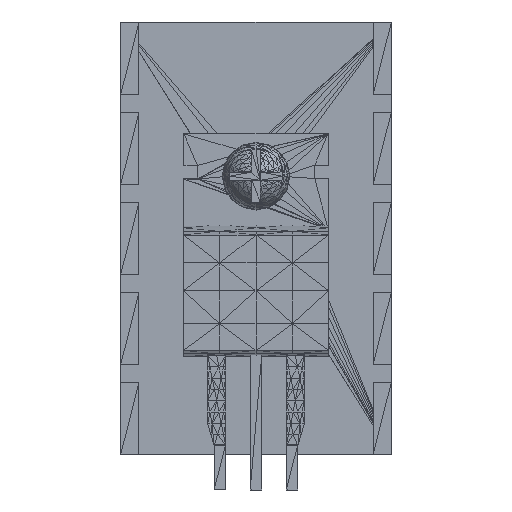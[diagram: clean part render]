
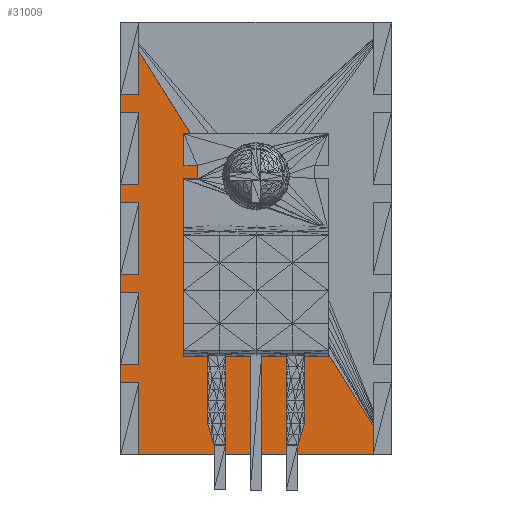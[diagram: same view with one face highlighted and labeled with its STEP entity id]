
A CAD part, front view. The second image highlights one B-rep face of the part: STEP entity #31009.
In plain terms, the highlighted planar face has unit normal (0, -1, 0).
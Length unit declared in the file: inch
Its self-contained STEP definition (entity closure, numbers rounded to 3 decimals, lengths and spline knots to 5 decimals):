
#30978=CARTESIAN_POINT('',(-0.375,0.10976,1.20002));
#30979=DIRECTION('',(0.,1.,0.));
#30980=DIRECTION('',(1.,0.,0.));
#30981=AXIS2_PLACEMENT_3D('',#30978,#30979,#30980);
#30982=PLANE('',#30981);
#30983=CARTESIAN_POINT('',(-0.375,0.11,0.00002));
#30984=VERTEX_POINT('',#30983);
#30985=CARTESIAN_POINT('',(-0.375,0.10976,1.20002));
#30986=VERTEX_POINT('',#30985);
#30987=CARTESIAN_POINT('',(-0.375,0.11,0.00002));
#30988=DIRECTION('',(0.,0.,1.));
#30989=VECTOR('',#30988,1.2);
#30990=LINE('',#30987,#30989);
#30991=EDGE_CURVE('',#30984,#30986,#30990,.T.);
#30992=ORIENTED_EDGE('',*,*,#30991,.F.);
#30993=CARTESIAN_POINT('',(0.375,0.11,0.00002));
#30994=VERTEX_POINT('',#30993);
#30995=CARTESIAN_POINT('',(-0.375,0.11,0.00002));
#30996=DIRECTION('',(1.,0.,-0.));
#30997=VECTOR('',#30996,0.75);
#30998=LINE('',#30995,#30997);
#30999=EDGE_CURVE('',#30984,#30994,#30998,.T.);
#31000=ORIENTED_EDGE('',*,*,#30999,.T.);
#31001=CARTESIAN_POINT('',(0.375,0.11,0.00002));
#31002=DIRECTION('',(-0.53,0.,0.848));
#31003=VECTOR('',#31002,1.4151);
#31004=LINE('',#31001,#31003);
#31005=EDGE_CURVE('',#30994,#30986,#31004,.T.);
#31006=ORIENTED_EDGE('',*,*,#31005,.T.);
#31007=EDGE_LOOP('',(#30992,#31000,#31006));
#31008=FACE_BOUND('',#31007,.T.);
#31009=ADVANCED_FACE('',(#31008),#30982,.F.);
